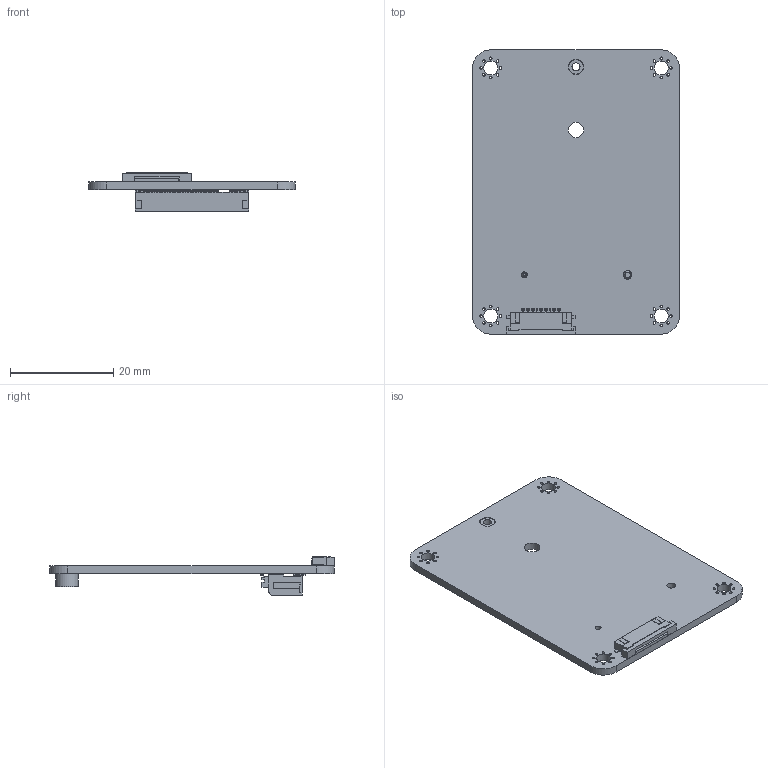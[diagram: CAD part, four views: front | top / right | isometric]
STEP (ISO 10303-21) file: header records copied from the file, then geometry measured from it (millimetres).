
FILE_DESCRIPTION(/* description */ ('KiCad electronic assembly'),/* implementation_level */ '2;1');
FILE_NAME(/* name */ 'Scalar_M2E_Public.step',/* time_stamp */ '2026-08-09T22:12:17+03:00',/* author */ (''),/* organization */ (''),/* preprocessor_version */ 'ST-DEVELOPER v20.1',/* originating_system */ 'Autodesk Translation Framework v15.8.0.0',/* authorisation */ '');
FILE_SCHEMA (('AUTOMOTIVE_DESIGN { 1 0 10303 214 3 1 1 }'));
Length unit declared in the file: millimetre
Products named in the file (5): 2026-04-19-14-26-15-165; 2026-04-19-14-26-15-173; 2026-04-19-14-26-15-196; 2026-04-19-14-26-15-214; 2026-04-19-14-26-15-220
Assembly tree (4 placements, depth 2):
  2026-04-19-14-26-15-165
    2026-04-19-14-26-15-173
    2026-04-19-14-26-15-196
    2026-04-19-14-26-15-214
    2026-04-19-14-26-15-220
Bounding box: 40 x 55 x 7.54 mm (x, y, z)
Volume: 3857 mm3; surface area: 5854.9 mm2
Topology: 4 solids, 4 shells, 1829 faces, 5084 edges, 3383 vertices
Faces by surface type: plane 1465, cylinder 358, bspline 4, cone 2
Full cylindrical faces by diameter (mm): 0.5 x32, 0.8 x1, 1.15 x1, 1.45 x1, 1.567 x1, 1.65 x1, 2.7 x4, 2.8 x1, 3 x2, 4.35 x1
Entity records: 59085 total; most frequent: CARTESIAN_POINT 11094, ORIENTED_EDGE 10168, DIRECTION 9476, EDGE_CURVE 5084, LINE 4346, VECTOR 4346, VERTEX_POINT 3383, AXIS2_PLACEMENT_3D 2565
